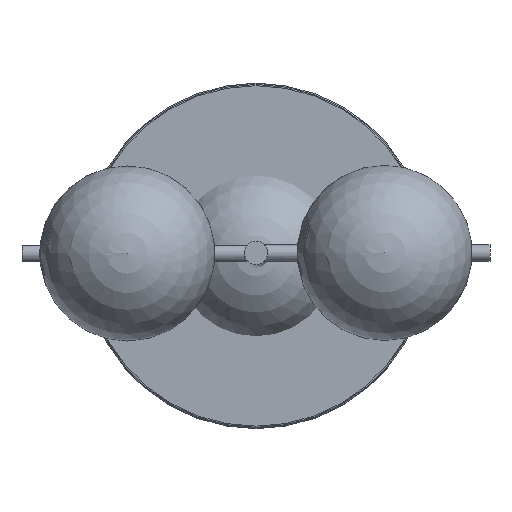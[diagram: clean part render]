
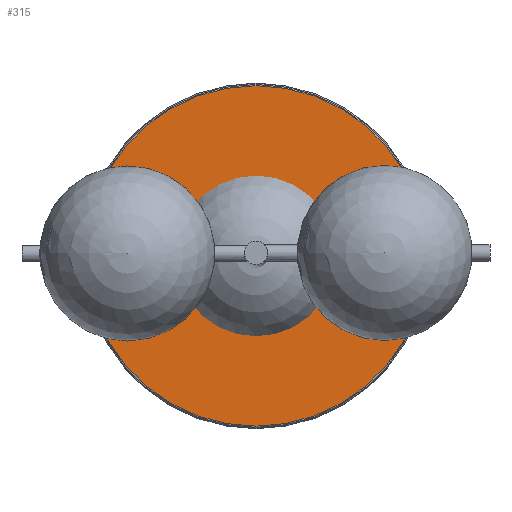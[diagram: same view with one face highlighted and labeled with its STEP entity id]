
A CAD part, top view. The second image highlights one B-rep face of the part: STEP entity #315.
In plain terms, the highlighted planar face has unit normal (0, 0, 1).
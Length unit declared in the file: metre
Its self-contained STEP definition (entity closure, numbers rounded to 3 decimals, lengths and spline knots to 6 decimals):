
#315 = ADVANCED_FACE( '', ( #408, #409 ), #410, .T. );
#408 = FACE_BOUND( '', #508, .T. );
#409 = FACE_OUTER_BOUND( '', #509, .T. );
#410 = PLANE( '', #510 );
#508 = EDGE_LOOP( '', ( #672 ) );
#509 = EDGE_LOOP( '', ( #673 ) );
#510 = AXIS2_PLACEMENT_3D( '', #674, #675, #676 );
#672 = ORIENTED_EDGE( '', *, *, #724, .F. );
#673 = ORIENTED_EDGE( '', *, *, #726, .T. );
#674 = CARTESIAN_POINT( '', ( 0., 0., 0.03 ) );
#675 = DIRECTION( '', ( 0., 0., 1. ) );
#676 = DIRECTION( '', ( 1., 0., 0. ) );
#724 = EDGE_CURVE( '', #791, #791, #792, .T. );
#726 = EDGE_CURVE( '', #795, #795, #796, .T. );
#791 = VERTEX_POINT( '', #1187 );
#792 = CIRCLE( '', #1188, 0.00525 );
#795 = VERTEX_POINT( '', #1191 );
#796 = CIRCLE( '', #1192, 0.1455 );
#1187 = CARTESIAN_POINT( '', ( 0.00525, 0., 0.03 ) );
#1188 = AXIS2_PLACEMENT_3D( '', #1277, #1278, #1279 );
#1191 = CARTESIAN_POINT( '', ( 0.1455, 0., 0.03 ) );
#1192 = AXIS2_PLACEMENT_3D( '', #1283, #1284, #1285 );
#1277 = CARTESIAN_POINT( '', ( 0., 0., 0.03 ) );
#1278 = DIRECTION( '', ( 0., 0., 1. ) );
#1279 = DIRECTION( '', ( 1., 0., 0. ) );
#1283 = CARTESIAN_POINT( '', ( 0., 0., 0.03 ) );
#1284 = DIRECTION( '', ( 0., 0., 1. ) );
#1285 = DIRECTION( '', ( 1., 0., 0. ) );
